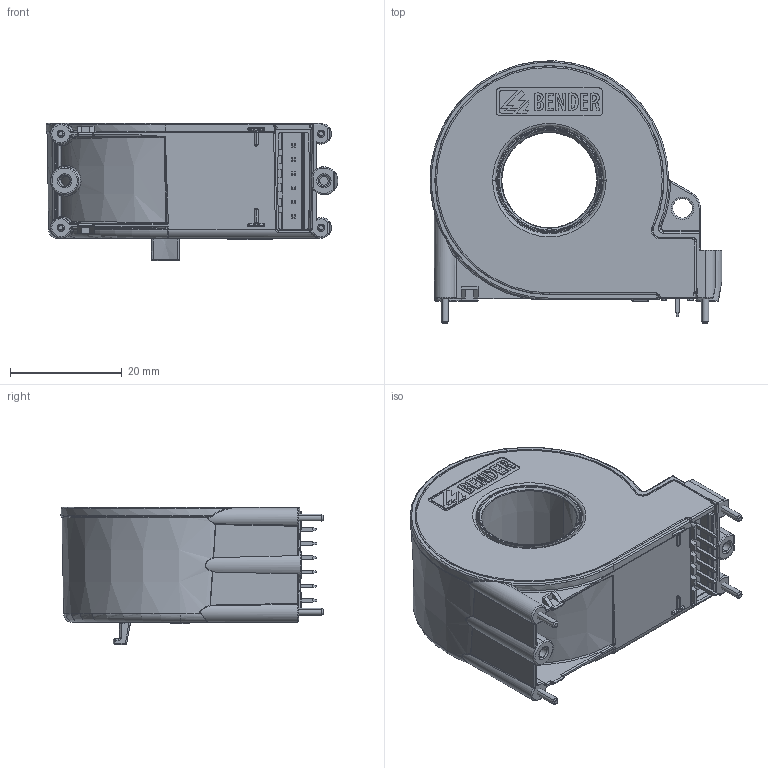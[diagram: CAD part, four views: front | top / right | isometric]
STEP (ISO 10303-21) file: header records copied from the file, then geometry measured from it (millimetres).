
FILE_DESCRIPTION (( 'STEP AP214' ), '1' );
FILE_NAME ('Z152608_CTBC17_Stromwandler_Leiterplattenmontage.STEP', '2021-03-17T16:47:56', ( '' ), ( '' ), 'SwSTEP 2.0', 'SolidWorks 2021', '' );
FILE_SCHEMA (( 'AUTOMOTIVE_DESIGN' ));
Length unit declared in the file: millimetre
Products named in the file (1): Z152608_CTBC17_Stromwandler_Leiterplattenmontage
Bounding box: 52.13 x 46.81 x 24.5 mm (x, y, z)
Volume: 7590.2 mm3; surface area: 15047.9 mm2
Topology: 13 solids, 13 shells, 1033 faces, 2567 edges, 1528 vertices
Faces by surface type: plane 372, cylinder 224, bspline 209, torus 119, sphere 79, cone 30
Entity records: 35540 total; most frequent: CARTESIAN_POINT 12584, ORIENTED_EDGE 4996, DIRECTION 4458, EDGE_CURVE 2498, AXIS2_PLACEMENT_3D 1644, VERTEX_POINT 1521, LINE 1170, VECTOR 1170
